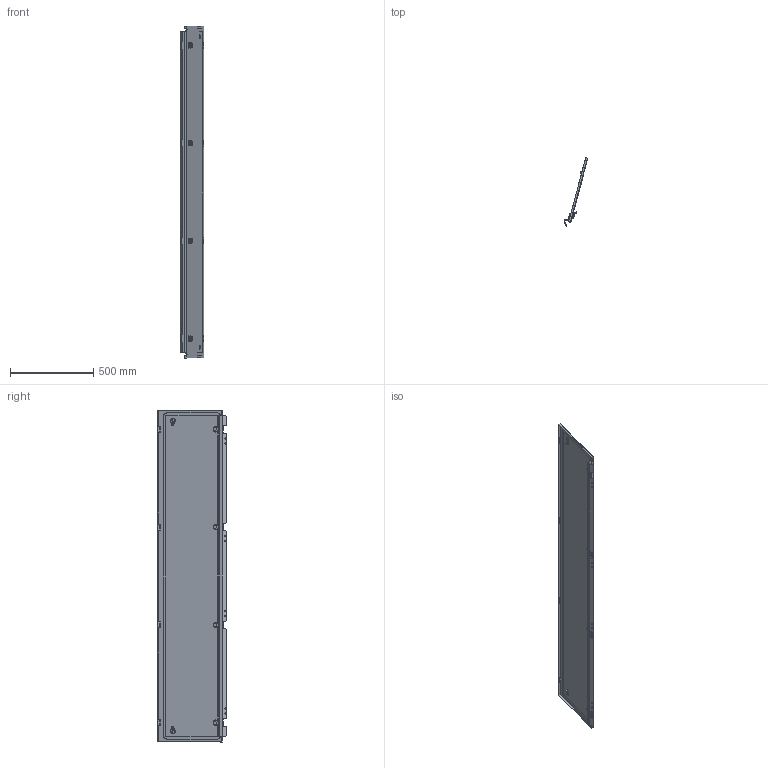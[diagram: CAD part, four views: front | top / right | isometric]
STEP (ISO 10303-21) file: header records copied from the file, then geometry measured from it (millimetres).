
FILE_DESCRIPTION (( 'STEP AP214' ), '1' );
FILE_NAME ('FO-00-DBC-200-040 Äâåðü âñòðîåííîãî îòñåêà 2000õ400 ìì.STEP', '2025-08-20T11:55:30', ( '' ), ( '' ), 'SwSTEP 2.0', 'SolidWorks 2023', '' );
FILE_SCHEMA (( 'AUTOMOTIVE_DESIGN' ));
Length unit declared in the file: millimetre
Products named in the file (1): FO-00-DBC-200-040 Дверь встроенного отсека 2000х400 мм
Bounding box: 141.17 x 407.79 x 1990 mm (x, y, z)
Volume: 2288450.9 mm3; surface area: 2060060.9 mm2
Topology: 1 solids, 13 shells, 1000 faces, 2635 edges, 1714 vertices
Faces by surface type: plane 545, cylinder 352, bspline 60, torus 27, cone 16
Entity records: 35441 total; most frequent: CARTESIAN_POINT 10798, ORIENTED_EDGE 5270, DIRECTION 4941, EDGE_CURVE 2635, VECTOR 1715, LINE 1715, VERTEX_POINT 1714, AXIS2_PLACEMENT_3D 1613
